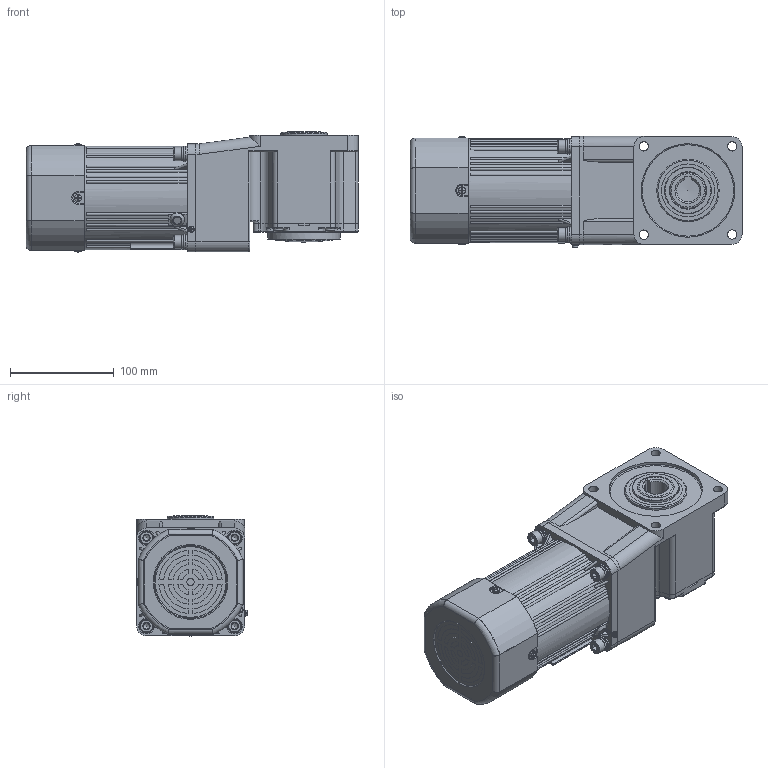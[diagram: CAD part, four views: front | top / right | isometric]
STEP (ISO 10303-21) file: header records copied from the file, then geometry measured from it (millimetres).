
FILE_DESCRIPTION(/* description */ (''),/* implementation_level */ '2;1');
FILE_NAME(/* name */ '100+直角中空-刹车风叶-120-140W 新版.stp',/* time_stamp */ '2025-03-25T15:03:43+08:00',/* author */ (''),/* organization */ (''),/* preprocessor_version */ 'ST-DEVELOPER v18.102',/* originating_system */ 'SIEMENS PLM Software NX 2027',/* authorisation */ '');
FILE_SCHEMA (('AP203_CONFIGURATION_CONTROLLED_3D_DESIGN_OF_MECHANICAL_PARTS_AND_ASSEMBLIES_MIM_LF { 1 0 10303 403 2 1 2}'));
Length unit declared in the file: millimetre
Products named in the file (1): 6RK120-140CC·MF_6GU3-750K-C·15L_stp_objects
Bounding box: 319.5 x 106.83 x 115.53 mm (x, y, z)
Volume: 3047305.9 mm3; surface area: 409722.8 mm2
Topology: 24 solids, 24 shells, 1744 faces, 4503 edges, 2913 vertices
Faces by surface type: plane 764, cylinder 539, bspline 212, torus 105, cone 98, sphere 26
Full cylindrical faces by diameter (mm): 2.6 x2, 2.7 x1, 3 x3, 3.2 x2, 3.3 x6, 3.5 x6, 3.6 x4, 4 x4, 4.55 x2, 5.1 x2, 5.15 x2, 6 x10, 6.8 x12, 7 x2, 7.5 x2, 7.76 x4, 8.4 x4, 9 x13, 9.3 x1, 9.5 x4, 13 x4, 14 x8, 15 x5, 15.5 x2, 19 x2, 27 x1, 28 x1, 30 x3, 35 x1, 37 x1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
Entity records: 53803 total; most frequent: CARTESIAN_POINT 13539, ORIENTED_EDGE 8186, DIRECTION 7914, EDGE_CURVE 4093, AXIS2_PLACEMENT_3D 3138, VERTEX_POINT 2772, EDGE_LOOP 2208, ADVANCED_FACE 1743
